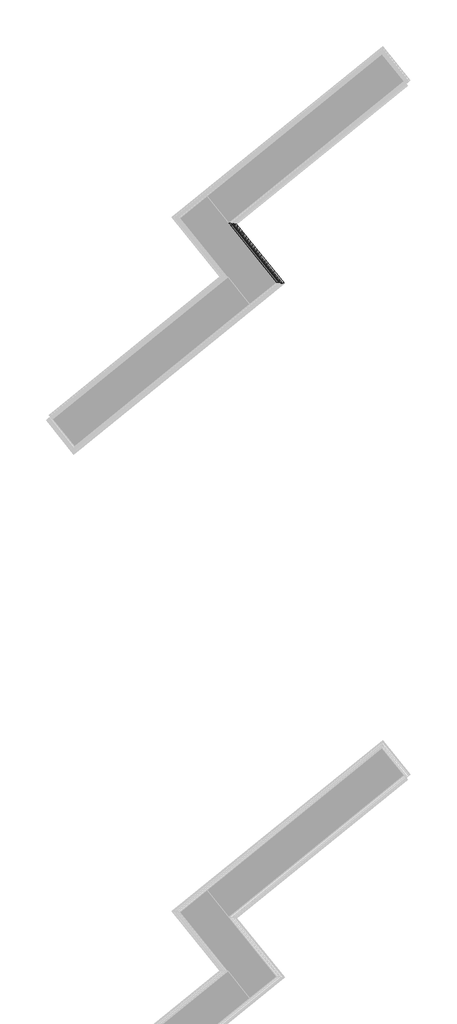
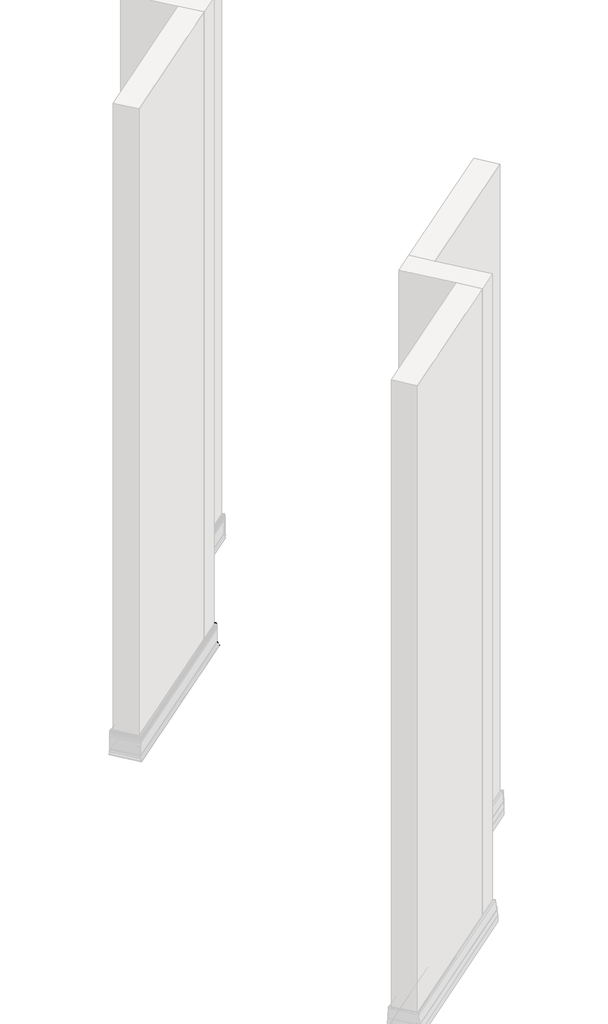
# One storey, part 19 of 21: 1 proxy.
"""IFC4 building model written with IfcOpenShell, lengths in millimetres."""

from ifc_helpers import new_model, si_unit, frame, origin, place, context, project, spatial, polyline, ellipse_curve, element, save
from ifc_brep_helpers import plane_surface, cylinder_surface, revolved_surface, advanced_brep

model = new_model("IFC4")

# Units and contexts
model_context = context("Model", 3, world=origin())
ifc_project = project(units=[si_unit("LENGTHUNIT", "METRE", prefix="MILLI")], contexts=[model_context])

# Site, building, storey
site = spatial("IfcSite", under=ifc_project)
building = spatial("IfcBuilding", under=site)
storey = spatial("IfcBuildingStorey", under=building, Name="Izofleks 2D View", Elevation=0.0)

# Proxy
placement = place(None, origin())
element("IfcBuildingElementProxy", 1, Name="Wall Sweeps", at=placement, inside=storey, context=model_context, shape_type="AdvancedBrep", body=[
    advanced_brep(
    [(10099.0017853, -3174.8066361, 24.6576156), (10099.0017853, -3174.8066361, 28.7655485), (10095.5576259, -3174.4446403, 28.7655485), (10095.2879611, -3174.4162974, 27.7479135), (10096.6513787, -3174.5595984, 27.7479135), (10097.336631, -3174.6316213, 27.1399945), (10094.5883072, -3174.3427608, 18.3), (10096.8983438, -3174.5855554, 18.3), (10096.8983438, -3174.5855554, 16.99999), (10089.8664199, -3173.8464705, 16.99999), (10089.8664199, -3173.8464705, 0.0), (10088.0380278, -3173.6542987, 0.0), (10088.0380278, -3173.6542987, 54.99999), (10089.8664199, -3173.8464705, 53.99999), (10089.8664199, -3173.8464705, 47.8868905), (10094.1422828, -3174.2958818, 47.8868905), (10093.1866354, -3174.1954392, 48.3626585), (10091.971347, -3174.0677072, 48.3626585), (10091.2754082, -3173.9945611, 48.9497419), (10093.9629433, -3174.2770324, 59.2434073), (10094.9669729, -3174.3825602, 59.6555585), (10098.9877396, -3174.8051598, 59.6555585), (10098.9158473, -3174.7976036, 78.3223694), (10098.9158473, -3174.7976036, 87.2257869), (10099.0181, -3174.8083508, 93.4495757), (10098.0443584, -3174.7060064, 98.368044), (10097.4655994, -3174.6451764, 99.5828469), (10096.0780174, -3174.4993357, 101.7076691), (10094.3686139, -3174.3196701, 103.1069743), (10092.8680403, -3174.1619535, 103.51129), (10092.8680403, -3174.1619535, 101.4584585), (10087.9454081, -3173.644564, 101.4584585), (10087.9454081, -3173.644564, 102.9584585), (10090.7583408, -3173.9402151, 102.9584585), (10090.7583408, -3173.9402151, 104.9584585), (10093.2196576, -3174.1989099, 104.9964584), (10095.680976, -3174.4576049, 104.2814568), (10097.904048, -3174.6912592, 102.4589271), (10099.4365348, -3174.8523301, 100.1178709), (10100.3074929, -3174.9438714, 98.199675), (10100.7096381, -3174.9861386, 96.8753527), (10101.1226115, -3175.0295439, 93.606275), (10101.0255451, -3175.0193418, 87.1886584), (10101.109933, -3175.0282113, 78.3276584), (10101.109933, -3175.0282113, 24.6000924), (10101.5529446, -3175.0747737, 19.4344099), (10104.8859776, -3175.4250896, 12.1684838), (10110.226984, -3175.986452, 4.8872371), (10108.6266766, -3175.8182529, 2.9584585), (10106.2294706, -3175.5662964, 2.9584585), (10106.2294706, -3175.5662964, 0.4656585), (10104.3869997, -3175.3726449, 0.4656585), (10104.3869997, -3175.3726449, 4.2584585), (10105.9120379, -3175.5329329, 4.2584585), (10107.1460821, -3175.6626361, 5.7382041), (10102.9815749, -3175.2249288, 11.523042), (10099.4747346, -3174.856345, 19.1754831), (10237.4522713, -3345.7787476, 24.6576156), (10237.9252206, -3345.8284565, 19.1754831), (10241.4320609, -3346.1970403, 11.523042), (10245.5965682, -3346.6347477, 5.7382041), (10244.3625239, -3346.5050444, 4.2584585), (10242.8374858, -3346.3447564, 4.2584585), (10242.8374858, -3346.3447564, 0.4656585), (10244.6799567, -3346.5384079, 0.4656585), (10244.6799567, -3346.5384079, 2.9584585), (10247.0771626, -3346.7903644, 2.9584585), (10248.6774701, -3346.9585635, 4.8872371), (10243.3364636, -3346.3972011, 12.1684838), (10240.0034307, -3346.0468852, 19.4344099), (10239.560419, -3346.0003228, 24.6000924), (10239.560419, -3346.0003228, 78.3276584), (10239.4760312, -3345.9914533, 87.1886584), (10239.5730975, -3346.0016554, 93.606275), (10239.1601241, -3345.9582501, 96.8753527), (10238.7579789, -3345.915983, 98.199675), (10237.8870208, -3345.8244416, 100.1178709), (10236.3545341, -3345.6633707, 102.4589271), (10234.1314621, -3345.4297165, 104.2814568), (10231.6701436, -3345.1710215, 104.9964584), (10229.2088268, -3344.9123266, 104.9584585), (10229.2088268, -3344.9123266, 102.9584585), (10226.3958941, -3344.6166755, 102.9584585), (10226.3958941, -3344.6166755, 101.4584585), (10231.3185263, -3345.134065, 101.4584585), (10231.3185263, -3345.134065, 103.51129), (10232.8190999, -3345.2917816, 103.1069743), (10234.5285034, -3345.4714472, 101.7076691), (10235.9160855, -3345.6172879, 99.5828469), (10236.4948445, -3345.678118, 98.368044), (10237.4685861, -3345.7804623, 93.4495757), (10237.3663333, -3345.7697151, 87.2257869), (10237.3663333, -3345.7697151, 78.3223694), (10237.4382256, -3345.7772713, 59.6555585), (10233.4174589, -3345.3546717, 59.6555585), (10232.4134293, -3345.2491439, 59.2434073), (10229.7258942, -3344.9666726, 48.9497419), (10230.421833, -3345.0398187, 48.3626585), (10231.6371214, -3345.1675507, 48.3626585), (10232.5927689, -3345.2679933, 47.8868905), (10228.316906, -3344.818582, 47.8868905), (10228.316906, -3344.818582, 53.99999), (10226.4885138, -3344.6264102, 54.99999), (10226.4885138, -3344.6264102, 0.0), (10228.316906, -3344.818582, 0.0), (10228.316906, -3344.818582, 16.99999), (10235.3488299, -3345.557667, 16.99999), (10235.3488299, -3345.557667, 18.3), (10233.0387933, -3345.3148723, 18.3), (10235.787117, -3345.6037328, 27.1399945), (10235.1018647, -3345.5317099, 27.7479135), (10233.7384472, -3345.3884089, 27.7479135), (10234.0081119, -3345.4167518, 28.7655485), (10237.4522713, -3345.7787476, 28.7655485)],
    [
        (0, 1),
        (1, 2),
        (2, 3),
        (3, 4),
        (4, 5, ellipse_curve(frame((10096.6499722, -3174.5594505, 27.2479135), z_axis=(0.10452846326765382, 0.9945218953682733, 0.0), x_axis=(-0.9945218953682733, 0.10452846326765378, 0.0)), 0.7071082, 0.500001)),
        (5, 6),
        (6, 7),
        (7, 8, ellipse_curve(frame((10096.7280877, -3174.5676608, 17.649995), z_axis=(0.10452846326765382, 0.9945218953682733, 0.0), x_axis=(-0.9945218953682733, 0.10452846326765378, 0.0)), 0.935051, 0.6611809)),
        (8, 9),
        (9, 10),
        (10, 11),
        (11, 12),
        (12, 13, ellipse_curve(frame((10088.3885058, -3173.6911354, 53.9789482), z_axis=(0.10452846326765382, 0.9945218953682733, 0.0), x_axis=(-0.9945218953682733, 0.10452846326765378, 0.0)), 1.4863528, 1.0510102)),
        (13, 14),
        (14, 15),
        (15, 16),
        (16, 17),
        (17, 18, ellipse_curve(frame((10091.9679018, -3174.0673451, 48.8626585), z_axis=(0.10452846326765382, 0.9945218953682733, 0.0), x_axis=(-0.9945218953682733, 0.10452846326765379, 0.0)), 0.7071153, 0.500006)),
        (18, 19),
        (19, 20, ellipse_curve(frame((10094.7126458, -3174.3558293, 59.1444576), z_axis=(0.10452846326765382, 0.9945218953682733, 0.0), x_axis=(-0.9945218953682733, 0.10452846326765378, 0.0)), 0.7667105, 0.5421462)),
        (20, 21),
        (21, 22),
        (22, 23),
        (23, 24, ellipse_curve(frame((9983.864085, -3162.7051761, 91.2936585), z_axis=(-0.10452846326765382, -0.9945218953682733, 0.0), x_axis=(0.9945218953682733, -0.10452846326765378, 0.0)), 115.8284506, 81.9030829)),
        (24, 25, ellipse_curve(frame((10075.4169035, -3172.3277651, 93.5954863), z_axis=(-0.10452846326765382, -0.9945218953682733, 0.0), x_axis=(0.9945218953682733, -0.10452846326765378, 0.0)), 23.7320956, 16.7811257)),
        (25, 26, ellipse_curve(frame((10057.6675286, -3170.4622306, 89.3206815), z_axis=(-0.10452846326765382, -0.9945218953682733, 0.0), x_axis=(0.9945218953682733, -0.10452846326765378, 0.0)), 42.5676821, 30.0998967)),
        (26, 27, ellipse_curve(frame((10075.4169035, -3172.3277651, 93.5954863), z_axis=(-0.10452846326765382, -0.9945218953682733, 0.0), x_axis=(0.9945218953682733, -0.10452846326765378, 0.0)), 23.7320956, 16.7811257)),
        (27, 28, ellipse_curve(frame((10090.1233303, -3173.8734728, 99.2578162), z_axis=(-0.10452846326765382, -0.9945218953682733, 0.0), x_axis=(0.9945218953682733, -0.10452846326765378, 0.0)), 6.9176268, 4.8915008)),
        (28, 29, ellipse_curve(frame((10092.7504807, -3174.1495975, 101.680883), z_axis=(-0.10452846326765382, -0.9945218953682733, 0.0), x_axis=(0.9945218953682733, -0.10452846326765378, 0.0)), 2.5912839, 1.8323144)),
        (29, 30),
        (30, 31),
        (31, 32),
        (32, 33),
        (33, 34),
        (34, 35, ellipse_curve(frame((10092.2572552, -3174.0977574, 96.1938046), z_axis=(0.10452846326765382, 0.9945218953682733, 0.0), x_axis=(-0.9945218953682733, 0.10452846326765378, 0.0)), 12.4863877, 8.8292094)),
        (35, 36, ellipse_curve(frame((10092.7504807, -3174.1495975, 101.680883), z_axis=(0.10452846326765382, 0.9945218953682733, 0.0), x_axis=(-0.9945218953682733, 0.10452846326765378, 0.0)), 4.7126043, 3.3323144)),
        (36, 37, ellipse_curve(frame((10090.1233303, -3173.8734728, 99.2578162), z_axis=(0.10452846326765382, 0.9945218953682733, 0.0), x_axis=(-0.9945218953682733, 0.10452846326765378, 0.0)), 9.0389471, 6.3915008)),
        (37, 38, ellipse_curve(frame((10075.4883004, -3172.3352692, 93.6169585), z_axis=(0.10452846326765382, 0.9945218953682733, 0.0), x_axis=(-0.9945218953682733, 0.10452846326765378, 0.0)), 25.7755165, 18.2260425)),
        (38, 39, ellipse_curve(frame((10076.6980796, -3172.4624221, 93.8395846), z_axis=(0.10452846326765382, 0.9945218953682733, 0.0), x_axis=(-0.9945218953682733, 0.10452846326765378, 0.0)), 24.5271842, 17.3433382)),
        (39, 40),
        (40, 41, ellipse_curve(frame((10075.4883004, -3172.3352692, 93.6169585), z_axis=(0.10452846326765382, 0.9945218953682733, 0.0), x_axis=(-0.9945218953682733, 0.10452846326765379, 0.0)), 25.7755165, 18.2260425)),
        (41, 42, ellipse_curve(frame((9983.864085, -3162.7051761, 91.2936584), z_axis=(0.10452846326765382, 0.9945218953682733, 0.0), x_axis=(-0.9945218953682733, 0.10452846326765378, 0.0)), 117.9497709, 83.4030829)),
        (42, 43),
        (43, 44),
        (44, 45, ellipse_curve(frame((10137.8092662, -3178.8854667, 23.5987093), z_axis=(-0.10452846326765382, -0.9945218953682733, 0.0), x_axis=(0.9945218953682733, -0.10452846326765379, 0.0)), 36.9286476, 26.1124971)),
        (45, 46, ellipse_curve(frame((10142.7538787, -3179.4051664, 24.9692502), z_axis=(-0.10452846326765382, -0.9945218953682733, 0.0), x_axis=(0.9945218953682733, -0.10452846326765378, 0.0)), 42.1608608, 29.8122306)),
        (46, 47, ellipse_curve(frame((10254.1400736, -3191.1123272, 62.8834263), z_axis=(-0.10452846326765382, -0.9945218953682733, 0.0), x_axis=(0.9945218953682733, -0.10452846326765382, 0.0)), 166.3336568, 117.6156566)),
        (47, 48, ellipse_curve(frame((10108.6266766, -3175.8182529, 4.2584585), z_axis=(0.10452846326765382, 0.9945218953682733, 0.0), x_axis=(-0.9945218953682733, 0.10452846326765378, 0.0)), 1.8384776, 1.3)),
        (48, 49),
        (49, 50),
        (50, 51),
        (51, 52),
        (52, 53),
        (53, 54, ellipse_curve(frame((10105.9120379, -3175.5329329, 5.2584585), z_axis=(-0.10452846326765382, -0.9945218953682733, 0.0), x_axis=(0.9945218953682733, -0.10452846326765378, 0.0)), 1.4142136, 1.0)),
        (54, 55, ellipse_curve(frame((10254.1400736, -3191.1123272, 62.8834263), z_axis=(0.10452846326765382, 0.9945218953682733, 0.0), x_axis=(-0.9945218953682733, 0.10452846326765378, 0.0)), 168.4549771, 119.1156566)),
        (55, 56, ellipse_curve(frame((10142.7538787, -3179.4051664, 24.9692502), z_axis=(0.10452846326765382, 0.9945218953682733, 0.0), x_axis=(-0.9945218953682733, 0.10452846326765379, 0.0)), 44.2821811, 31.3122306)),
        (56, 0, ellipse_curve(frame((10137.8092662, -3178.8854667, 23.5987093), z_axis=(0.10452846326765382, 0.9945218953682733, 0.0), x_axis=(-0.9945218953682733, 0.10452846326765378, 0.0)), 39.0499679, 27.6124971)),
        (57, 58, ellipse_curve(frame((10276.2597522, -3349.8575782, 23.5987093), z_axis=(-0.10452846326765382, -0.9945218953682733, 0.0), x_axis=(-0.9945218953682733, 0.10452846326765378, 0.0)), 39.0499679, 27.6124971)),
        (58, 59, ellipse_curve(frame((10281.2043647, -3350.3772779, 24.9692502), z_axis=(-0.10452846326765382, -0.9945218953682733, 0.0), x_axis=(-0.9945218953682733, 0.10452846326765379, 0.0)), 44.2821811, 31.3122306)),
        (59, 60, ellipse_curve(frame((10392.5905596, -3362.0844387, 62.8834263), z_axis=(-0.10452846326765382, -0.9945218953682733, 0.0), x_axis=(-0.9945218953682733, 0.10452846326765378, 0.0)), 168.4549771, 119.1156566)),
        (60, 61, ellipse_curve(frame((10244.3625239, -3346.5050444, 5.2584585), z_axis=(0.10452846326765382, 0.9945218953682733, 0.0), x_axis=(0.9945218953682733, -0.10452846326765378, 0.0)), 1.4142136, 1.0)),
        (61, 62),
        (62, 63),
        (63, 64),
        (64, 65),
        (65, 66),
        (66, 67, ellipse_curve(frame((10247.0771626, -3346.7903644, 4.2584585), z_axis=(-0.10452846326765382, -0.9945218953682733, 0.0), x_axis=(-0.9945218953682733, 0.10452846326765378, 0.0)), 1.8384776, 1.3)),
        (67, 68, ellipse_curve(frame((10392.5905596, -3362.0844387, 62.8834263), z_axis=(0.10452846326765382, 0.9945218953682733, 0.0), x_axis=(0.9945218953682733, -0.10452846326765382, 0.0)), 166.3336568, 117.6156566)),
        (68, 69, ellipse_curve(frame((10281.2043647, -3350.3772779, 24.9692502), z_axis=(0.10452846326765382, 0.9945218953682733, 0.0), x_axis=(0.9945218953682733, -0.10452846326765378, 0.0)), 42.1608608, 29.8122306)),
        (69, 70, ellipse_curve(frame((10276.2597522, -3349.8575782, 23.5987093), z_axis=(0.10452846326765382, 0.9945218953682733, 0.0), x_axis=(0.9945218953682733, -0.10452846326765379, 0.0)), 36.9286476, 26.1124971)),
        (70, 71),
        (71, 72),
        (72, 73, ellipse_curve(frame((10122.3145711, -3333.6772876, 91.2936584), z_axis=(-0.10452846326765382, -0.9945218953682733, 0.0), x_axis=(-0.9945218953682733, 0.10452846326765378, 0.0)), 117.9497709, 83.4030829)),
        (73, 74, ellipse_curve(frame((10213.9387864, -3343.3073807, 93.6169585), z_axis=(-0.10452846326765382, -0.9945218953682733, 0.0), x_axis=(-0.9945218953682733, 0.10452846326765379, 0.0)), 25.7755165, 18.2260425)),
        (74, 75),
        (75, 76, ellipse_curve(frame((10215.1485656, -3343.4345336, 93.8395846), z_axis=(-0.10452846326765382, -0.9945218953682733, 0.0), x_axis=(-0.9945218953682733, 0.10452846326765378, 0.0)), 24.5271842, 17.3433382)),
        (76, 77, ellipse_curve(frame((10213.9387864, -3343.3073807, 93.6169585), z_axis=(-0.10452846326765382, -0.9945218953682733, 0.0), x_axis=(-0.9945218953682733, 0.10452846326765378, 0.0)), 25.7755165, 18.2260425)),
        (77, 78, ellipse_curve(frame((10228.5738163, -3344.8455843, 99.2578162), z_axis=(-0.10452846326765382, -0.9945218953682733, 0.0), x_axis=(-0.9945218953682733, 0.10452846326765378, 0.0)), 9.0389471, 6.3915008)),
        (78, 79, ellipse_curve(frame((10231.2009668, -3345.121709, 101.680883), z_axis=(-0.10452846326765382, -0.9945218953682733, 0.0), x_axis=(-0.9945218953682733, 0.10452846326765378, 0.0)), 4.7126043, 3.3323144)),
        (79, 80, ellipse_curve(frame((10230.7077412, -3345.0698689, 96.1938046), z_axis=(-0.10452846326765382, -0.9945218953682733, 0.0), x_axis=(-0.9945218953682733, 0.10452846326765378, 0.0)), 12.4863877, 8.8292094)),
        (80, 81),
        (81, 82),
        (82, 83),
        (83, 84),
        (84, 85),
        (85, 86, ellipse_curve(frame((10231.2009667, -3345.121709, 101.680883), z_axis=(0.10452846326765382, 0.9945218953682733, 0.0), x_axis=(0.9945218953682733, -0.10452846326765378, 0.0)), 2.5912839, 1.8323144)),
        (86, 87, ellipse_curve(frame((10228.5738163, -3344.8455843, 99.2578162), z_axis=(0.10452846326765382, 0.9945218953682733, 0.0), x_axis=(0.9945218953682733, -0.10452846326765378, 0.0)), 6.9176268, 4.8915008)),
        (87, 88, ellipse_curve(frame((10213.8673896, -3343.2998766, 93.5954863), z_axis=(0.10452846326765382, 0.9945218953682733, 0.0), x_axis=(0.9945218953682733, -0.10452846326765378, 0.0)), 23.7320956, 16.7811257)),
        (88, 89, ellipse_curve(frame((10196.1180146, -3341.4343421, 89.3206815), z_axis=(0.10452846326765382, 0.9945218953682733, 0.0), x_axis=(0.9945218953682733, -0.10452846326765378, 0.0)), 42.5676821, 30.0998967)),
        (89, 90, ellipse_curve(frame((10213.8673896, -3343.2998766, 93.5954863), z_axis=(0.10452846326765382, 0.9945218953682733, 0.0), x_axis=(0.9945218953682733, -0.10452846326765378, 0.0)), 23.7320956, 16.7811257)),
        (90, 91, ellipse_curve(frame((10122.3145711, -3333.6772876, 91.2936585), z_axis=(0.10452846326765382, 0.9945218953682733, 0.0), x_axis=(0.9945218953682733, -0.10452846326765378, 0.0)), 115.8284506, 81.9030829)),
        (91, 92),
        (92, 93),
        (93, 94),
        (94, 95, ellipse_curve(frame((10233.1631319, -3345.3279409, 59.1444576), z_axis=(-0.10452846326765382, -0.9945218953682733, 0.0), x_axis=(-0.9945218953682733, 0.10452846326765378, 0.0)), 0.7667105, 0.5421462)),
        (95, 96),
        (96, 97, ellipse_curve(frame((10230.4183879, -3345.0394566, 48.8626585), z_axis=(-0.10452846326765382, -0.9945218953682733, 0.0), x_axis=(-0.9945218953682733, 0.10452846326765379, 0.0)), 0.7071153, 0.500006)),
        (97, 98),
        (98, 99),
        (99, 100),
        (100, 101),
        (101, 102, ellipse_curve(frame((10226.8389918, -3344.663247, 53.9789482), z_axis=(-0.10452846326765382, -0.9945218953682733, 0.0), x_axis=(-0.9945218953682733, 0.10452846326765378, 0.0)), 1.4863528, 1.0510102)),
        (102, 103),
        (103, 104),
        (104, 105),
        (105, 106),
        (106, 107, ellipse_curve(frame((10235.1785737, -3345.5397723, 17.649995), z_axis=(-0.10452846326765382, -0.9945218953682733, 0.0), x_axis=(-0.9945218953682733, 0.10452846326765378, 0.0)), 0.935051, 0.6611809)),
        (107, 108),
        (108, 109),
        (109, 110, ellipse_curve(frame((10235.1004582, -3345.5315621, 27.2479135), z_axis=(-0.10452846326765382, -0.9945218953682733, 0.0), x_axis=(-0.9945218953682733, 0.10452846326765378, 0.0)), 0.7071082, 0.500001)),
        (110, 111),
        (111, 112),
        (112, 113),
        (113, 57),
        (0, 57),
        (113, 1),
        (112, 2),
        (111, 3),
        (110, 4),
        (109, 5),
        (108, 6),
        (107, 7),
        (106, 8),
        (105, 9),
        (104, 10),
        (103, 11),
        (102, 12),
        (101, 13),
        (100, 14),
        (99, 15),
        (98, 16),
        (97, 17),
        (96, 18),
        (95, 19),
        (94, 20),
        (93, 21),
        (92, 22),
        (91, 23),
        (90, 24),
        (89, 25),
        (88, 26),
        (87, 27),
        (86, 28),
        (85, 29),
        (84, 30),
        (83, 31),
        (82, 32),
        (81, 33),
        (80, 34),
        (79, 35),
        (78, 36),
        (77, 37),
        (76, 38),
        (75, 39),
        (74, 40),
        (73, 41),
        (72, 42),
        (71, 43),
        (70, 44),
        (69, 45),
        (68, 46),
        (67, 47),
        (66, 48),
        (65, 49),
        (64, 50),
        (63, 51),
        (62, 52),
        (61, 53),
        (60, 54),
        (59, 55),
        (58, 56),
    ],
    [
        plane_surface(frame((10088.0380278, -3173.6542987, -304.8), z_axis=(0.10452846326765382, 0.9945218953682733, 0.0), x_axis=(0.9945218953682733, -0.10452846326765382, 0.0))),
        plane_surface(frame((10226.4885138, -3344.6264102, 304.8), z_axis=(-0.10452846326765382, -0.9945218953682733, 0.0), x_axis=(-0.9945218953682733, 0.10452846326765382, 0.0))),
        plane_surface(frame((10099.0017853, -3174.8066361, 24.6576156), z_axis=(-0.7771459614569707, -0.6293203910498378, 0.0), x_axis=(0.6293203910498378, -0.7771459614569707, 0.0))),
        plane_surface(frame((10099.0017853, -3174.8066361, 28.7655485), z_axis=(0.0, 0.0, -1.0000000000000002), x_axis=(0.6293203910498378, -0.7771459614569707, 0.0))),
        plane_surface(frame((10095.5576259, -3174.4446403, 28.7655485), z_axis=(0.7637090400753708, 0.6184393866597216, -0.18515190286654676), x_axis=(0.6293203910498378, -0.7771459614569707, 0.0))),
        plane_surface(frame((10095.2879611, -3174.4162974, 27.7479135), z_axis=(0.0, 0.0, 1.0000000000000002), x_axis=(0.6293203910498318, -0.7771459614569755, 0.0))),
        cylinder_surface(frame((10092.7965759, -3169.8009024, 27.2479135), z_axis=(-0.629320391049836, 0.7771459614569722, 0.0), x_axis=(0.7589775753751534, 0.6146079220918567, -0.21496544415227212)), 0.500001),
        plane_surface(frame((10097.336631, -3174.6316213, 27.1399945), z_axis=(0.7588280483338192, 0.6144868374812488, -0.21583771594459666), x_axis=(0.6293203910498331, -0.7771459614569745, 0.0))),
        plane_surface(frame((10094.5883072, -3174.3427608, 18.3), z_axis=(0.0, 0.0, 1.0000000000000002), x_axis=(0.6293203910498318, -0.7771459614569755, 0.0))),
        cylinder_surface(frame((10092.8397388, -3169.7659498, 17.649995), z_axis=(-0.629320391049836, 0.7771459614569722, 0.0), x_axis=(0.1422838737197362, 0.11521920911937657, -0.9830970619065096)), 0.6611809),
        plane_surface(frame((10096.8983438, -3174.5855554, 16.99999), z_axis=(0.0, 0.0, -1.0000000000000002), x_axis=(0.6293203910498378, -0.7771459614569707, 0.0))),
        plane_surface(frame((10089.8664199, -3173.8464705, 16.99999), z_axis=(0.7771459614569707, 0.6293203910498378, 0.0), x_axis=(0.6293203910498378, -0.7771459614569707, 0.0))),
        plane_surface(frame((10089.8664199, -3173.8464705, 0.0), z_axis=(0.0, 0.0, -1.0000000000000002), x_axis=(0.6293203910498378, -0.7771459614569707, 0.0))),
        plane_surface(frame((10088.0380278, -3173.6542987, 0.0), z_axis=(-0.7771459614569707, -0.6293203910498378, 0.0), x_axis=(0.6293203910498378, -0.7771459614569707, 0.0))),
        cylinder_surface(frame((10088.2316851, -3173.497478, 53.9789482), z_axis=(-0.629320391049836, 0.7771459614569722, 0.0), x_axis=(0.7769901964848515, 0.6291942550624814, 0.02002058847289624)), 1.0510102),
        plane_surface(frame((10089.8664199, -3173.8464705, 53.99999), z_axis=(0.7771459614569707, 0.6293203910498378, 0.0), x_axis=(0.6293203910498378, -0.7771459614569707, 0.0))),
        plane_surface(frame((10089.8664199, -3173.8464705, 47.8868905), z_axis=(0.0, 0.0, 1.0000000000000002), x_axis=(0.6293203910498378, -0.7771459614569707, 0.0))),
        plane_surface(frame((10094.1422828, -3174.2958818, 47.8868905), z_axis=(-0.4457526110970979, -0.36096334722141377, -0.8191520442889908), x_axis=(0.6293203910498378, -0.7771459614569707, 0.0))),
        plane_surface(frame((10093.1866354, -3174.1954392, 48.3626585), z_axis=(0.0, 0.0, -1.0000000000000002), x_axis=(0.6293203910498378, -0.7771459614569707, 0.0))),
        cylinder_surface(frame((10090.209488, -3171.8958849, 48.8626585), z_axis=(-0.629320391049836, 0.7771459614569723, 0.0), x_axis=(-0.7652684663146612, -0.6197021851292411, 0.17416479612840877)), 0.500006),
        plane_surface(frame((10091.2754082, -3173.9945611, 48.9497419), z_axis=(-0.7640923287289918, -0.6187497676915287, 0.18251476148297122), x_axis=(0.6293203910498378, -0.7771459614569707, 0.0))),
        cylinder_surface(frame((10091.7261021, -3170.667755, 59.1444576), z_axis=(-0.6293203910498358, 0.7771459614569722, 0.0), x_axis=(0.7771459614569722, 0.6293203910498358, 0.0)), 0.5421462),
        plane_surface(frame((10094.9669729, -3174.3825602, 59.6555585), z_axis=(0.0, 0.0, 1.0000000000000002), x_axis=(0.6293203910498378, -0.7771459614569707, 0.0))),
        plane_surface(frame((10098.9877396, -3174.8051598, 59.6555585), z_axis=(-0.7771430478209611, -0.6293180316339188, -0.0027382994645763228), x_axis=(0.6293203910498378, -0.7771459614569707, 0.0))),
        plane_surface(frame((10098.9158473, -3174.7976036, 78.3223694), z_axis=(-0.7771459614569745, -0.6293203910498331, 0.0), x_axis=(0.6293203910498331, -0.7771459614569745, 0.0))),
        revolved_surface(polyline([(10237.486446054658, -3345.8025175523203, 93.44957570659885), (9995.949399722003, -3047.5291058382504, 93.44957570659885)]), (10030.4764951, -3220.2667088, 91.2936585), (0.6293203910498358, -0.777145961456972, 0.0)),
        revolved_surface(polyline([(10236.93094226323, -3346.216653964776, 98.36804399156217), (10077.359047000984, -3149.1617742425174, 98.36804399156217)]), (10081.0641988, -3179.301594, 93.5954863), (0.6293203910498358, -0.7771459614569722, 0.0)),
        revolved_surface(polyline([(10237.051001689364, -3347.018792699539, 99.58284698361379), (10060.715558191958, -3129.2626549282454, 99.58284698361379)]), (10071.2567441, -3187.2435142, 89.3206815), (0.6293203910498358, -0.7771459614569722, 0.0)),
        revolved_surface(polyline([(10235.844436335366, -3347.0964891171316, 101.70766904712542), (10076.27254107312, -3150.041609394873, 101.70766904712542)]), (10081.0641988, -3179.301594, 93.5954863), (0.629320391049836, -0.7771459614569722, 0.0)),
        revolved_surface(polyline([(10234.002329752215, -3346.743846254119, 103.10247529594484), (10089.395201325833, -3168.1689145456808, 103.10247529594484)]), (10089.1902661, -3172.7212345, 99.2578162), (0.6293203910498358, -0.7771459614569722, 0.0)),
        revolved_surface(polyline([(10232.419037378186, -3346.4930829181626, 103.51128994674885), (10091.66232571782, -3172.673019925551, 103.51128994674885)]), (10090.6419036, -3171.5457216, 101.680883), (0.629320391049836, -0.7771459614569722, 0.0)),
        plane_surface(frame((10092.8680403, -3174.1619535, 103.51129), z_axis=(0.7771459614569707, 0.6293203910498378, 0.0), x_axis=(0.6293203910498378, -0.7771459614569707, 0.0))),
        plane_surface(frame((10092.8680403, -3174.1619535, 101.4584585), z_axis=(0.0, 0.0, -1.0000000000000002), x_axis=(0.6293203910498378, -0.7771459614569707, 0.0))),
        plane_surface(frame((10087.9454081, -3173.644564, 101.4584585), z_axis=(-0.7771459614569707, -0.6293203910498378, 0.0), x_axis=(0.6293203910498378, -0.7771459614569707, 0.0))),
        plane_surface(frame((10087.9454081, -3173.644564, 102.9584585), z_axis=(0.0, 0.0, 1.0000000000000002), x_axis=(0.6293203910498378, -0.7771459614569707, 0.0))),
        plane_surface(frame((10090.7583408, -3173.9402151, 102.9584585), z_axis=(-0.7771459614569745, -0.6293203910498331, 0.0), x_axis=(0.6293203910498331, -0.7771459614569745, 0.0))),
        cylinder_surface(frame((10090.3693708, -3171.7664143, 96.1938046), z_axis=(-0.6293203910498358, 0.7771459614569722, 0.0), x_axis=(0.060229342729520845, 0.04877276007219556, 0.9969922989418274)), 8.8292094),
        cylinder_surface(frame((10090.6419036, -3171.5457216, 101.680883), z_axis=(-0.6293203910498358, 0.7771459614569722, 0.0), x_axis=(0.4859239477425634, 0.3934934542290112, 0.7804106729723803)), 3.3323144),
        cylinder_surface(frame((10089.1902661, -3172.7212345, 99.2578162), z_axis=(-0.6293203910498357, 0.7771459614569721, 0.0), x_axis=(0.6726514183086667, 0.5447023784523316, 0.5008386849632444)), 6.3915008),
        cylinder_surface(frame((10081.1036493, -3179.2696476, 93.6169585), z_axis=(-0.629320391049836, 0.7771459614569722, 0.0), x_axis=(0.7260296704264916, 0.5879272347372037, 0.35668261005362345)), 18.2260425),
        cylinder_surface(frame((10081.7721154, -3178.7283345, 93.8395846), z_axis=(-0.629320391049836, 0.7771459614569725, 0.0), x_axis=(0.7635664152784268, 0.6183238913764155, 0.18612333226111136)), 17.3433382),
        plane_surface(frame((10100.3074929, -3174.9438714, 98.199675), z_axis=(0.759642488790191, 0.6151463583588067, 0.21104086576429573), x_axis=(0.6293203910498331, -0.7771459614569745, 0.0))),
        cylinder_surface(frame((10081.1036493, -3179.2696476, 93.6169585), z_axis=(-0.629320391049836, 0.7771459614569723, 0.0), x_axis=(0.7771458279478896, 0.6293202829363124, -0.0005861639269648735)), 18.2260425),
        cylinder_surface(frame((10030.4764951, -3220.2667088, 91.2936584), z_axis=(-0.629320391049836, 0.7771459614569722, 0.0), x_axis=(0.7762040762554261, 0.6285576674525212, -0.04921880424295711)), 83.4030829),
        plane_surface(frame((10101.0255451, -3175.0193418, 87.1886584), z_axis=(0.7771281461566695, 0.6293059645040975, 0.006771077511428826), x_axis=(0.6293203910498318, -0.7771459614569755, 0.0))),
        plane_surface(frame((10101.109933, -3175.0282113, 78.3276584), z_axis=(0.7771459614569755, 0.6293203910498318, 0.0), x_axis=(0.6293203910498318, -0.7771459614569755, 0.0))),
        revolved_surface(polyline([(10272.659371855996, -3386.373614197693, 19.434409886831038), (10101.342632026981, -3174.815059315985, 19.434409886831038)]), (10115.5392309, -3151.3842635, 23.5987093), (0.629320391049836, -0.7771459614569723, 0.0)),
        revolved_surface(polyline([(10279.041820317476, -3390.4896446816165, 12.168483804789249), (10103.06844510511, -3173.1806240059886, 12.168483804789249)]), (10118.271387, -3149.1718071, 24.9692502), (0.6293203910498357, -0.7771459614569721, 0.0)),
        revolved_surface(polyline([(10387.089008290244, -3517.8825784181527, 4.887237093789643), (10100.602660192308, -3164.1014017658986, 4.887237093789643)]), (10179.8180649, -3099.33229, 62.8834263), (0.6293203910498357, -0.7771459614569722, 0.0)),
        cylinder_surface(frame((10099.4143293, -3164.4419514, 4.2584585), z_axis=(-0.6293203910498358, 0.7771459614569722, 0.0), x_axis=(-1.848580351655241e-11, -1.4969508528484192e-11, -1.0)), 1.3),
        plane_surface(frame((10108.6266766, -3175.8182529, 2.9584585), z_axis=(0.0, 0.0, -1.0000000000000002), x_axis=(0.6293203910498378, -0.7771459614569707, 0.0))),
        plane_surface(frame((10106.2294706, -3175.5662964, 2.9584585), z_axis=(0.7771459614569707, 0.6293203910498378, 0.0), x_axis=(0.6293203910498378, -0.7771459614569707, 0.0))),
        plane_surface(frame((10106.2294706, -3175.5662964, 0.4656585), z_axis=(0.0, 0.0, -1.0000000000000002), x_axis=(0.6293203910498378, -0.7771459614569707, 0.0))),
        plane_surface(frame((10104.3869997, -3175.3726449, 0.4656585), z_axis=(-0.7771459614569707, -0.6293203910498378, 0.0), x_axis=(0.6293203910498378, -0.7771459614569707, 0.0))),
        plane_surface(frame((10104.3869997, -3175.3726449, 4.2584585), z_axis=(0.0, 0.0, 1.0000000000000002), x_axis=(0.6293203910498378, -0.7771459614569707, 0.0))),
        revolved_surface(polyline([(10245.67371809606, -3346.7300198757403, 5.738204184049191), (10105.964591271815, -3174.2036164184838, 5.738204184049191)]), (10097.9143499, -3165.6566107, 5.2584585), (0.6293203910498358, -0.7771459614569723, 0.0)),
        cylinder_surface(frame((10179.8180649, -3099.33229, 62.8834263), z_axis=(-0.6293203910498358, 0.7771459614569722, 0.0), x_axis=(-0.7011878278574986, -0.5678107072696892, -0.4311921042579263)), 119.1156566),
        cylinder_surface(frame((10118.271387, -3149.1718071, 24.9692502), z_axis=(-0.629320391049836, 0.7771459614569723, 0.0), x_axis=(-0.7636350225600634, -0.6183794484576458, -0.18565669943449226)), 31.3122306),
        cylinder_surface(frame((10115.5392309, -3151.3842635, 23.5987093), z_axis=(-0.629320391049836, 0.7771459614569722, 0.0), x_axis=(-0.776574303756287, -0.628857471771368, 0.038348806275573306)), 27.6124971),
    ],
    [
        (0, [[1, 2, 3, 4, 5, 6, 7, 8, 9, 10, 11, 12, 13, 14, 15, 16, 17, 18, 19, 20, 21, 22, 23, 24, 25, 26, 27, 28, 29, 30, 31, 32, 33, 34, 35, 36, 37, 38, 39, 40, 41, 42, 43, 44, 45, 46, 47, 48, 49, 50, 51, 52, 53, 54, 55, 56, 57]]),
        (1, [[58, 59, 60, 61, 62, 63, 64, 65, 66, 67, 68, 69, 70, 71, 72, 73, 74, 75, 76, 77, 78, 79, 80, 81, 82, 83, 84, 85, 86, 87, 88, 89, 90, 91, 92, 93, 94, 95, 96, 97, 98, 99, 100, 101, 102, 103, 104, 105, 106, 107, 108, 109, 110, 111, 112, 113, 114]]),
        (2, [[-1, 115, -114, 116]]),
        (3, [[-2, -116, -113, 117]]),
        (4, [[-3, -117, -112, 118]]),
        (5, [[-4, -118, -111, 119]]),
        (6, [[-5, -119, -110, 120]]),
        (7, [[-6, -120, -109, 121]]),
        (8, [[-7, -121, -108, 122]]),
        (9, [[-8, -122, -107, 123]]),
        (10, [[-9, -123, -106, 124]]),
        (11, [[-10, -124, -105, 125]]),
        (12, [[-11, -125, -104, 126]]),
        (13, [[-12, -126, -103, 127]]),
        (14, [[-13, -127, -102, 128]]),
        (15, [[-14, -128, -101, 129]]),
        (16, [[-15, -129, -100, 130]]),
        (17, [[-16, -130, -99, 131]]),
        (18, [[-17, -131, -98, 132]]),
        (19, [[-18, -132, -97, 133]]),
        (20, [[-19, -133, -96, 134]]),
        (21, [[-20, -134, -95, 135]]),
        (22, [[-21, -135, -94, 136]]),
        (23, [[-22, -136, -93, 137]]),
        (24, [[-23, -137, -92, 138]]),
        (25, [[-24, -138, -91, 139]]),
        (26, [[-25, -139, -90, 140]]),
        (27, [[-26, -140, -89, 141]]),
        (28, [[-27, -141, -88, 142]]),
        (29, [[-28, -142, -87, 143]]),
        (30, [[-29, -143, -86, 144]]),
        (31, [[-30, -144, -85, 145]]),
        (32, [[-31, -145, -84, 146]]),
        (33, [[-32, -146, -83, 147]]),
        (34, [[-33, -147, -82, 148]]),
        (35, [[-34, -148, -81, 149]]),
        (36, [[-35, -149, -80, 150]]),
        (37, [[-36, -150, -79, 151]]),
        (38, [[-37, -151, -78, 152]]),
        (39, [[-38, -152, -77, 153]]),
        (40, [[-39, -153, -76, 154]]),
        (41, [[-40, -154, -75, 155]]),
        (42, [[-41, -155, -74, 156]]),
        (43, [[-42, -156, -73, 157]]),
        (44, [[-43, -157, -72, 158]]),
        (45, [[-44, -158, -71, 159]]),
        (46, [[-45, -159, -70, 160]]),
        (47, [[-46, -160, -69, 161]]),
        (48, [[-47, -161, -68, 162]]),
        (49, [[-48, -162, -67, 163]]),
        (50, [[-49, -163, -66, 164]]),
        (51, [[-50, -164, -65, 165]]),
        (52, [[-51, -165, -64, 166]]),
        (53, [[-52, -166, -63, 167]]),
        (54, [[-53, -167, -62, 168]]),
        (55, [[-54, -168, -61, 169]]),
        (56, [[-55, -169, -60, 170]]),
        (57, [[-56, -170, -59, 171]]),
        (58, [[-57, -171, -58, -115]]),
    ],
),
])

save(model, "model.ifc")
